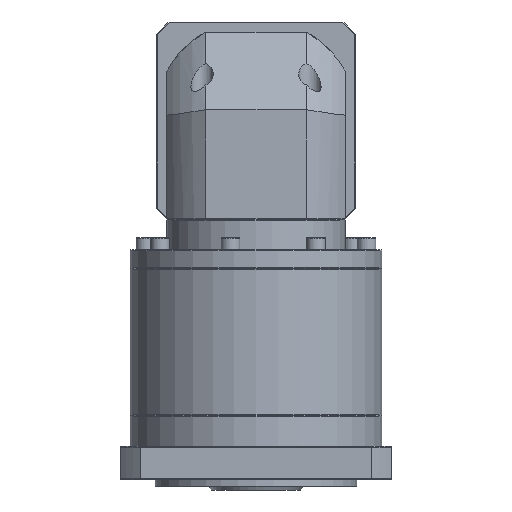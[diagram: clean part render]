
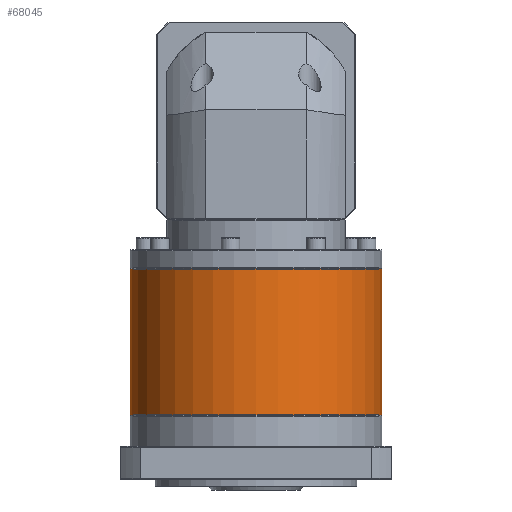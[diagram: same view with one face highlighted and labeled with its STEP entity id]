
A CAD part, front view. The second image highlights one B-rep face of the part: STEP entity #68045.
In plain terms, the highlighted cylindrical face has radius 81 mm (diameter 162 mm), a partial arc.
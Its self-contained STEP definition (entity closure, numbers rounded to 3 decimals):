
#3373 = CARTESIAN_POINT ( 'NONE',  ( -74.593, 86.344, -175.996 ) ) ;
#10465 = DIRECTION ( 'NONE',  ( 0., 0., -1. ) ) ;
#18673 = CARTESIAN_POINT ( 'NONE',  ( -155.593, 86.344, -81.996 ) ) ;
#19543 = LINE ( 'NONE', #20655, #89097 ) ;
#20655 = CARTESIAN_POINT ( 'NONE',  ( -236.593, 86.344, -81.996 ) ) ;
#23650 = ORIENTED_EDGE ( 'NONE', *, *, #53196, .T. ) ;
#26496 = EDGE_CURVE ( 'NONE', #132274, #30385, #112004, .T. ) ;
#27348 = CYLINDRICAL_SURFACE ( 'NONE', #52883, 81. ) ;
#29397 = ORIENTED_EDGE ( 'NONE', *, *, #44745, .T. ) ;
#30385 = VERTEX_POINT ( 'NONE', #3373 ) ;
#37106 = AXIS2_PLACEMENT_3D ( 'NONE', #91053, #60945, #102972 ) ;
#44745 = EDGE_CURVE ( 'NONE', #112735, #88718, #90799, .T. ) ;
#45093 = CARTESIAN_POINT ( 'NONE',  ( -155.593, 86.344, -82.496 ) ) ;
#45297 = EDGE_LOOP ( 'NONE', ( #111973, #29397, #23650, #61699 ) ) ;
#52883 = AXIS2_PLACEMENT_3D ( 'NONE', #18673, #85625, #127105 ) ;
#53196 = EDGE_CURVE ( 'NONE', #88718, #132274, #19543, .T. ) ;
#60945 = DIRECTION ( 'NONE',  ( 0., 0., 1. ) ) ;
#61699 = ORIENTED_EDGE ( 'NONE', *, *, #26496, .T. ) ;
#62379 = AXIS2_PLACEMENT_3D ( 'NONE', #45093, #108449, #75660 ) ;
#64452 = VECTOR ( 'NONE', #10465, 1000. ) ;
#68045 = ADVANCED_FACE ( 'NONE', ( #113402 ), #27348, .T. ) ;
#75660 = DIRECTION ( 'NONE',  ( -1., 0., 0. ) ) ;
#82234 = DIRECTION ( 'NONE',  ( 0., 0., -1. ) ) ;
#85625 = DIRECTION ( 'NONE',  ( 0., 0., -1. ) ) ;
#88718 = VERTEX_POINT ( 'NONE', #109006 ) ;
#89097 = VECTOR ( 'NONE', #82234, 1000. ) ;
#90799 = CIRCLE ( 'NONE', #62379, 81. ) ;
#91053 = CARTESIAN_POINT ( 'NONE',  ( -155.593, 86.344, -175.996 ) ) ;
#98224 = CARTESIAN_POINT ( 'NONE',  ( -74.593, 86.344, -82.496 ) ) ;
#102972 = DIRECTION ( 'NONE',  ( -1., 0., 0. ) ) ;
#104773 = CARTESIAN_POINT ( 'NONE',  ( -74.593, 86.344, -81.996 ) ) ;
#108449 = DIRECTION ( 'NONE',  ( 0., 0., -1. ) ) ;
#108716 = EDGE_CURVE ( 'NONE', #112735, #30385, #122299, .T. ) ;
#109006 = CARTESIAN_POINT ( 'NONE',  ( -236.593, 86.344, -82.496 ) ) ;
#111973 = ORIENTED_EDGE ( 'NONE', *, *, #108716, .F. ) ;
#112004 = CIRCLE ( 'NONE', #37106, 81. ) ;
#112735 = VERTEX_POINT ( 'NONE', #98224 ) ;
#113402 = FACE_OUTER_BOUND ( 'NONE', #45297, .T. ) ;
#122299 = LINE ( 'NONE', #104773, #64452 ) ;
#123345 = CARTESIAN_POINT ( 'NONE',  ( -236.593, 86.344, -175.996 ) ) ;
#127105 = DIRECTION ( 'NONE',  ( -1., 0., 0. ) ) ;
#132274 = VERTEX_POINT ( 'NONE', #123345 ) ;
